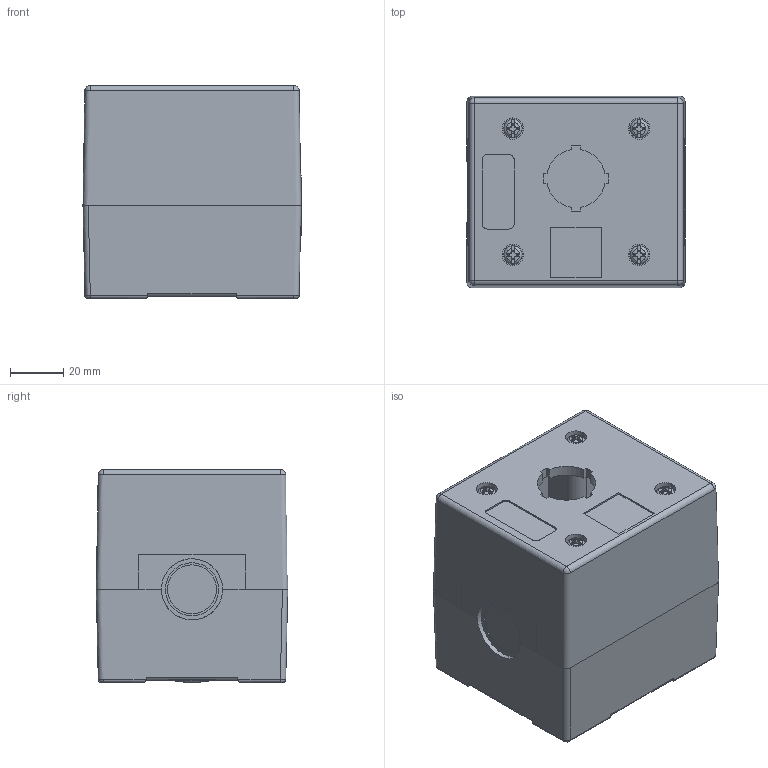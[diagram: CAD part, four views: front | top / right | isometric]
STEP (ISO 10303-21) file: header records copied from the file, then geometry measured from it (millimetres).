
FILE_DESCRIPTION(('Botoeira 1 Furo 22mm'),'2;1');
FILE_NAME('E:\WorkFolder\Bibl\3DWeb\Serie\C5\kp_c5_c5qe1_step.stp','2013-01-16T11:36:50',('DIE'),('KAP'),'Autodesk Inventor 2011','Autodesk Inventor 2011','Direitos reservados. Proibido reproducao, cedencia ou revelacao de conteudo a terceiros, salvo com autorizacao.');
FILE_SCHEMA(('AUTOMOTIVE_DESIGN { 1 0 10303 214 1 1 1 1 }'));
Length unit declared in the file: millimetre
Products named in the file (1): C5QE1_3D
Bounding box: 82 x 72 x 80 mm (x, y, z)
Volume: 143551.4 mm3; surface area: 90235.4 mm2
Topology: 1 solids, 1 shells, 871 faces, 2425 edges, 1553 vertices
Faces by surface type: plane 503, cylinder 220, bspline 87, torus 29, cone 20, sphere 12
Full cylindrical faces by diameter (mm): 2.85 x48, 3.3 x20, 3.9 x4, 7 x8, 8 x4, 18.2 x1, 18.4 x1, 18.9 x1, 20 x1, 20.5 x1, 22.8 x1, 23 x2
Entity records: 31826 total; most frequent: CARTESIAN_POINT 11926, ORIENTED_EDGE 4260, DIRECTION 3859, EDGE_CURVE 2130, VERTEX_POINT 1405, VECTOR 1399, LINE 1399, AXIS2_PLACEMENT_3D 1230
